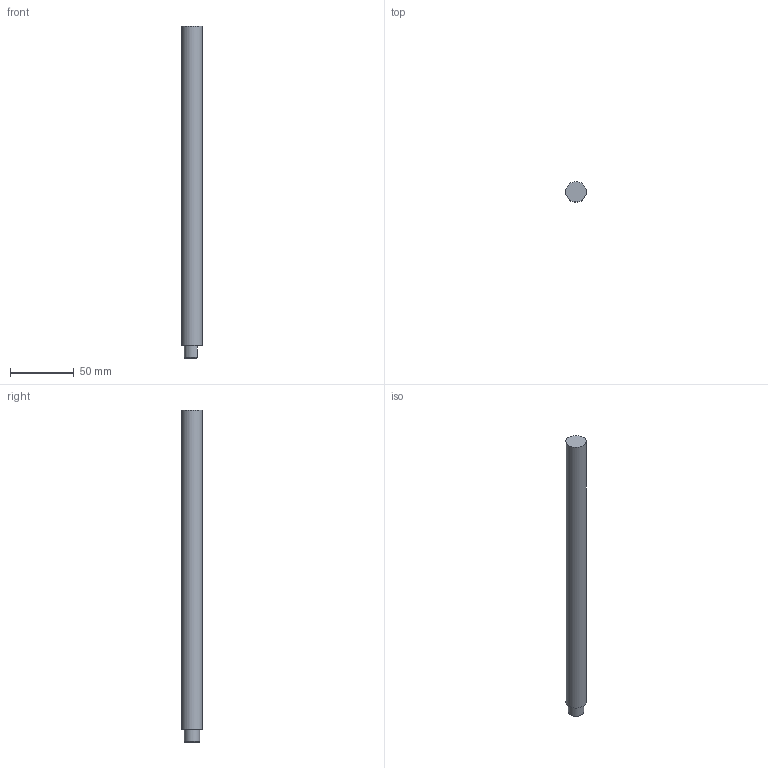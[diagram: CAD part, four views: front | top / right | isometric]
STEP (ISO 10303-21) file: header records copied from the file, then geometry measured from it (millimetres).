
FILE_DESCRIPTION (( 'STEP AP214' ), '1' );
FILE_NAME ('KKPHF Pin C_-_12-250.step', '2024-02-07T08:52:38', ( '' ), ( '' ), 'SwSTEP 2.0', 'SolidWorks 2020', '' );
FILE_SCHEMA (( 'AUTOMOTIVE_DESIGN' ));
Length unit declared in the file: millimetre
Products named in the file (1): KKPHF  Pin C_-_12-250
Bounding box: 16 x 16 x 259.9 mm (x, y, z)
Volume: 50960.9 mm3; surface area: 13547.3 mm2
Topology: 1 solids, 1 shells, 12 faces, 22 edges, 13 vertices
Faces by surface type: plane 5, cylinder 4, cone 2, torus 1
Full cylindrical faces by diameter (mm): 5 x1, 16 x1
Entity records: 323 total; most frequent: CARTESIAN_POINT 59, DIRECTION 48, ORIENTED_EDGE 36, AXIS2_PLACEMENT_3D 21, EDGE_CURVE 18, EDGE_LOOP 16, FACE_OUTER_BOUND 14, VERTEX_POINT 12
